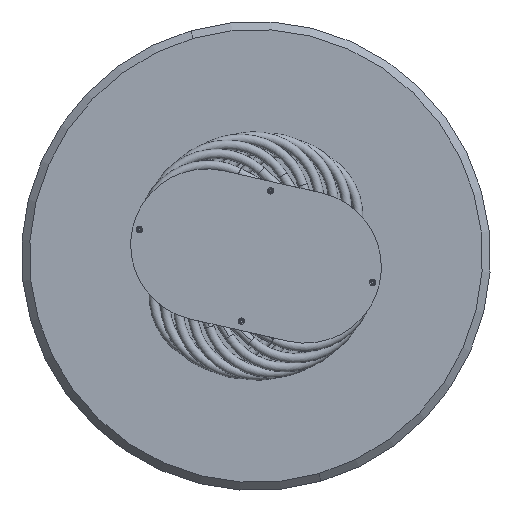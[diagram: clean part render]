
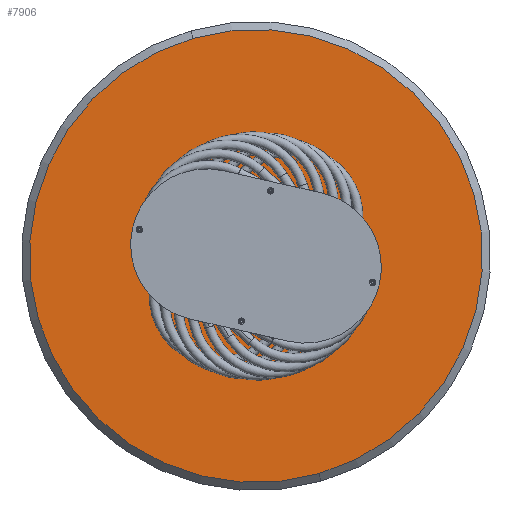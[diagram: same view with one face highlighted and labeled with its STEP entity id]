
A CAD part, front view. The second image highlights one B-rep face of the part: STEP entity #7906.
In plain terms, the highlighted planar face has unit normal (0, -1, 0).
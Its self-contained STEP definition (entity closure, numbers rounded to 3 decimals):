
#57 = CARTESIAN_POINT ( 'NONE',  ( 0., 0., 483. ) ) ;
#89 = AXIS2_PLACEMENT_3D ( 'NONE', #5506, #7864, #6107 ) ;
#189 = EDGE_CURVE ( 'NONE', #5608, #5652, #5977, .T. ) ;
#248 = CARTESIAN_POINT ( 'NONE',  ( -95., 0., -58.248 ) ) ;
#250 = DIRECTION ( 'NONE',  ( 0., 0., -1. ) ) ;
#320 = EDGE_LOOP ( 'NONE', ( #5721, #6941 ) ) ;
#351 = EDGE_LOOP ( 'NONE', ( #5402, #433 ) ) ;
#382 = AXIS2_PLACEMENT_3D ( 'NONE', #5253, #3281, #250 ) ;
#433 = ORIENTED_EDGE ( 'NONE', *, *, #1318, .F. ) ;
#440 = CARTESIAN_POINT ( 'NONE',  ( 0., 0., 106.297 ) ) ;
#569 = DIRECTION ( 'NONE',  ( 0., 0., -1. ) ) ;
#861 = FACE_BOUND ( 'NONE', #3235, .T. ) ;
#942 = FACE_BOUND ( 'NONE', #1342, .T. ) ;
#1062 = CARTESIAN_POINT ( 'NONE',  ( 0., 0., 109.697 ) ) ;
#1176 = DIRECTION ( 'NONE',  ( 0., 0., -1. ) ) ;
#1193 = CARTESIAN_POINT ( 'NONE',  ( 0., 0., -483. ) ) ;
#1278 = VERTEX_POINT ( 'NONE', #1340 ) ;
#1318 = EDGE_CURVE ( 'NONE', #1278, #6454, #3444, .T. ) ;
#1340 = CARTESIAN_POINT ( 'NONE',  ( 0., 0., 113.097 ) ) ;
#1342 = EDGE_LOOP ( 'NONE', ( #5963, #2725 ) ) ;
#1381 = CARTESIAN_POINT ( 'NONE',  ( 0., 0., 0. ) ) ;
#1425 = DIRECTION ( 'NONE',  ( 0., -1., 0. ) ) ;
#1579 = DIRECTION ( 'NONE',  ( 0., -1., 0. ) ) ;
#1864 = CIRCLE ( 'NONE', #5606, 483. ) ;
#2157 = AXIS2_PLACEMENT_3D ( 'NONE', #2570, #3233, #7484 ) ;
#2206 = DIRECTION ( 'NONE',  ( 0., 0., -1. ) ) ;
#2332 = CIRCLE ( 'NONE', #7606, 3.4 ) ;
#2383 = CIRCLE ( 'NONE', #5475, 3.4 ) ;
#2518 = CIRCLE ( 'NONE', #382, 3.4 ) ;
#2570 = CARTESIAN_POINT ( 'NONE',  ( 0., 0., 109.697 ) ) ;
#2610 = FACE_OUTER_BOUND ( 'NONE', #5045, .T. ) ;
#2725 = ORIENTED_EDGE ( 'NONE', *, *, #189, .F. ) ;
#2736 = CARTESIAN_POINT ( 'NONE',  ( -95., 0., -54.848 ) ) ;
#2785 = DIRECTION ( 'NONE',  ( 0., -1., 0. ) ) ;
#2791 = ORIENTED_EDGE ( 'NONE', *, *, #7247, .T. ) ;
#2988 = VERTEX_POINT ( 'NONE', #1193 ) ;
#3086 = VERTEX_POINT ( 'NONE', #6776 ) ;
#3178 = VERTEX_POINT ( 'NONE', #7615 ) ;
#3233 = DIRECTION ( 'NONE',  ( 0., -1., 0. ) ) ;
#3235 = EDGE_LOOP ( 'NONE', ( #5323, #5544 ) ) ;
#3281 = DIRECTION ( 'NONE',  ( 0., -1., 0. ) ) ;
#3356 = EDGE_CURVE ( 'NONE', #6277, #3086, #2332, .T. ) ;
#3444 = CIRCLE ( 'NONE', #2157, 3.4 ) ;
#3537 = CARTESIAN_POINT ( 'NONE',  ( 0., 0., 0. ) ) ;
#3575 = DIRECTION ( 'NONE',  ( 0., 0., -1. ) ) ;
#3620 = CARTESIAN_POINT ( 'NONE',  ( 0., 0., 0. ) ) ;
#3707 = AXIS2_PLACEMENT_3D ( 'NONE', #5304, #6475, #4664 ) ;
#3737 = EDGE_CURVE ( 'NONE', #3086, #6277, #4166, .T. ) ;
#3909 = EDGE_CURVE ( 'NONE', #6454, #1278, #4845, .T. ) ;
#4106 = DIRECTION ( 'NONE',  ( 0., -1., 0. ) ) ;
#4166 = CIRCLE ( 'NONE', #4466, 3.4 ) ;
#4466 = AXIS2_PLACEMENT_3D ( 'NONE', #2736, #1425, #7567 ) ;
#4562 = DIRECTION ( 'NONE',  ( 0., -1., 0. ) ) ;
#4664 = DIRECTION ( 'NONE',  ( 0., 0., -1. ) ) ;
#4718 = DIRECTION ( 'NONE',  ( 0., 0., -1. ) ) ;
#4743 = DIRECTION ( 'NONE',  ( 0., -1., 0. ) ) ;
#4792 = ORIENTED_EDGE ( 'NONE', *, *, #6050, .T. ) ;
#4845 = CIRCLE ( 'NONE', #6890, 3.4 ) ;
#4863 = CARTESIAN_POINT ( 'NONE',  ( 0., 0., 3.4 ) ) ;
#4864 = AXIS2_PLACEMENT_3D ( 'NONE', #1381, #4562, #7571 ) ;
#4974 = AXIS2_PLACEMENT_3D ( 'NONE', #5510, #6110, #1176 ) ;
#5045 = EDGE_LOOP ( 'NONE', ( #4792, #2791 ) ) ;
#5243 = FACE_BOUND ( 'NONE', #351, .T. ) ;
#5253 = CARTESIAN_POINT ( 'NONE',  ( 95., 0., -54.848 ) ) ;
#5304 = CARTESIAN_POINT ( 'NONE',  ( 0., 0., 0. ) ) ;
#5323 = ORIENTED_EDGE ( 'NONE', *, *, #7412, .F. ) ;
#5402 = ORIENTED_EDGE ( 'NONE', *, *, #3909, .F. ) ;
#5475 = AXIS2_PLACEMENT_3D ( 'NONE', #3537, #4743, #569 ) ;
#5498 = CIRCLE ( 'NONE', #3707, 483. ) ;
#5506 = CARTESIAN_POINT ( 'NONE',  ( 0., 0., 0. ) ) ;
#5510 = CARTESIAN_POINT ( 'NONE',  ( 95., 0., -54.848 ) ) ;
#5544 = ORIENTED_EDGE ( 'NONE', *, *, #6948, .F. ) ;
#5606 = AXIS2_PLACEMENT_3D ( 'NONE', #3620, #4106, #3575 ) ;
#5608 = VERTEX_POINT ( 'NONE', #4863 ) ;
#5652 = VERTEX_POINT ( 'NONE', #6631 ) ;
#5662 = EDGE_CURVE ( 'NONE', #5652, #5608, #2383, .T. ) ;
#5664 = VERTEX_POINT ( 'NONE', #5978 ) ;
#5721 = ORIENTED_EDGE ( 'NONE', *, *, #3356, .F. ) ;
#5963 = ORIENTED_EDGE ( 'NONE', *, *, #5662, .F. ) ;
#5977 = CIRCLE ( 'NONE', #89, 3.4 ) ;
#5978 = CARTESIAN_POINT ( 'NONE',  ( 95., 0., -58.248 ) ) ;
#6050 = EDGE_CURVE ( 'NONE', #6966, #2988, #1864, .T. ) ;
#6107 = DIRECTION ( 'NONE',  ( 0., 0., -1. ) ) ;
#6110 = DIRECTION ( 'NONE',  ( 0., -1., 0. ) ) ;
#6277 = VERTEX_POINT ( 'NONE', #248 ) ;
#6454 = VERTEX_POINT ( 'NONE', #440 ) ;
#6475 = DIRECTION ( 'NONE',  ( 0., -1., 0. ) ) ;
#6631 = CARTESIAN_POINT ( 'NONE',  ( 0., 0., -3.4 ) ) ;
#6776 = CARTESIAN_POINT ( 'NONE',  ( -95., 0., -51.448 ) ) ;
#6890 = AXIS2_PLACEMENT_3D ( 'NONE', #1062, #1579, #2206 ) ;
#6941 = ORIENTED_EDGE ( 'NONE', *, *, #3737, .F. ) ;
#6948 = EDGE_CURVE ( 'NONE', #3178, #5664, #7785, .T. ) ;
#6966 = VERTEX_POINT ( 'NONE', #57 ) ;
#7046 = FACE_BOUND ( 'NONE', #320, .T. ) ;
#7090 = CARTESIAN_POINT ( 'NONE',  ( -95., 0., -54.848 ) ) ;
#7247 = EDGE_CURVE ( 'NONE', #2988, #6966, #5498, .T. ) ;
#7412 = EDGE_CURVE ( 'NONE', #5664, #3178, #2518, .T. ) ;
#7484 = DIRECTION ( 'NONE',  ( 0., 0., -1. ) ) ;
#7567 = DIRECTION ( 'NONE',  ( 0., 0., -1. ) ) ;
#7571 = DIRECTION ( 'NONE',  ( 0., 0., -1. ) ) ;
#7606 = AXIS2_PLACEMENT_3D ( 'NONE', #7090, #2785, #4718 ) ;
#7615 = CARTESIAN_POINT ( 'NONE',  ( 95., 0., -51.448 ) ) ;
#7685 = PLANE ( 'NONE',  #4864 ) ;
#7785 = CIRCLE ( 'NONE', #4974, 3.4 ) ;
#7864 = DIRECTION ( 'NONE',  ( 0., -1., 0. ) ) ;
#7906 = ADVANCED_FACE ( 'NONE', ( #7046, #5243, #861, #2610, #942 ), #7685, .T. ) ;
